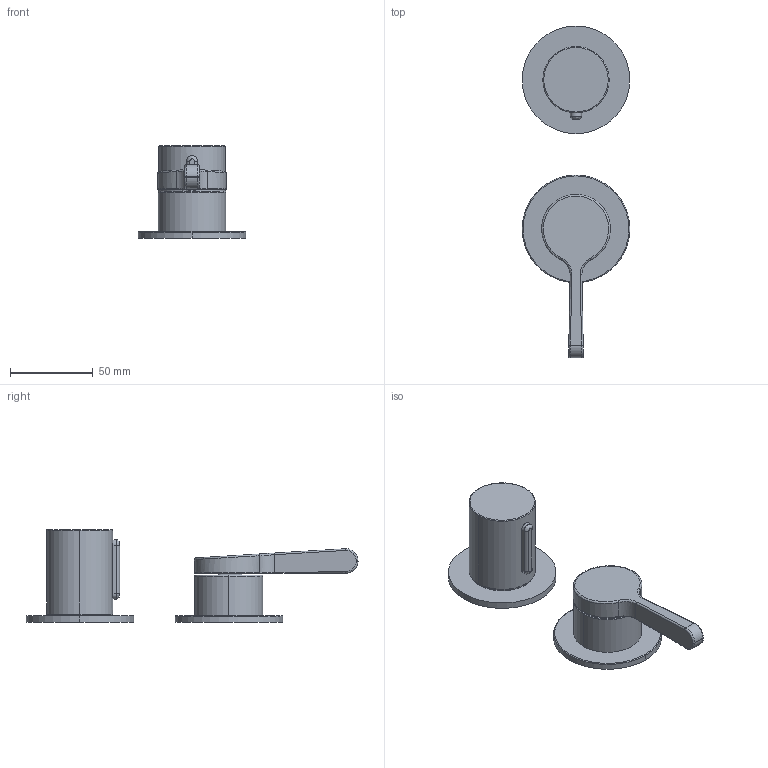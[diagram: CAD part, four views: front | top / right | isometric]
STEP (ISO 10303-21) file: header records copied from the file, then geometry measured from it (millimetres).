
FILE_DESCRIPTION((''),'2;1');
FILE_NAME('58000L989B000000_SW0001','2024-02-21T15:06:23',('cristian.dorz'),(''),'CREO PARAMETRIC BY PTC INC, 2022281','CREO PARAMETRIC BY PTC INC, 2022281','');
FILE_SCHEMA(('AUTOMOTIVE_DESIGN { 1 0 10303 214 1 1 1 1 }'));
Length unit declared in the file: millimetre
Products named in the file (1): 58000L989B000000_SW0001
Bounding box: 65 x 200.5 x 56 mm (x, y, z)
Volume: 145323.3 mm3; surface area: 31489.2 mm2
Topology: 2 solids, 2 shells, 114 faces, 283 edges, 183 vertices
Faces by surface type: cylinder 46, plane 40, bspline 15, torus 9, cone 4
Entity records: 9638 total; most frequent: CARTESIAN_POINT 6074, DIRECTION 557, ORIENTED_EDGE 540, EDGE_CURVE 270, AXIS2_PLACEMENT_3D 209, VERTEX_POINT 170, VECTOR 136, LINE 136
